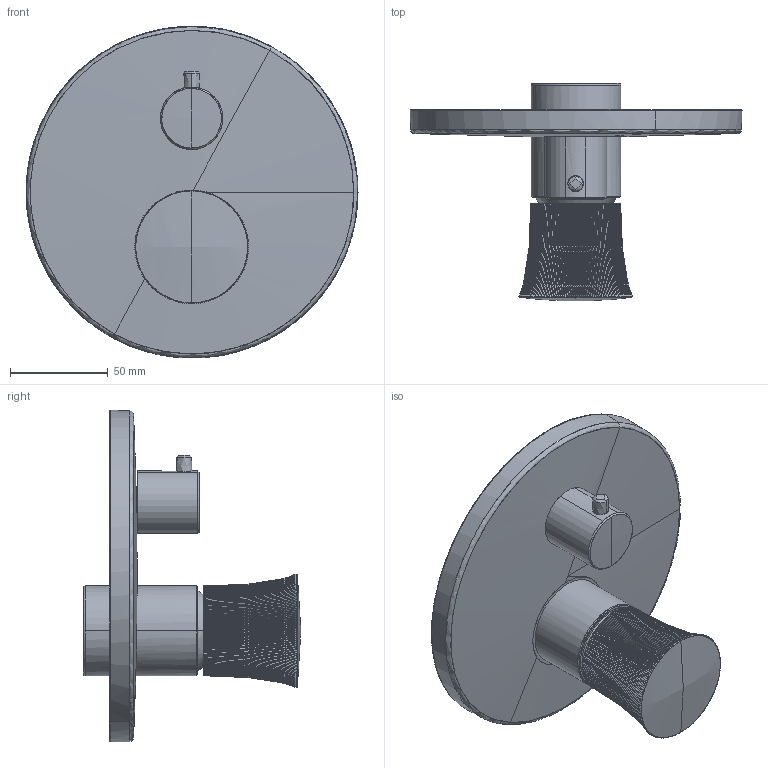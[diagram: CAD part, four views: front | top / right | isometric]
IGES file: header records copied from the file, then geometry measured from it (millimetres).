
Global section: file name: d:\users\matthias.isele\Desktop\Neuer Ordner\WT4210012010\3D\WT4210012010.igs; native system: Rhinoceros ( Sep 13 2016 ); preprocessor: Trout Lake IGES 012 Sep 13 2016; date: 221103.063119; units: millimetre
Bounding box: 170 x 111.46 x 169.81 mm (x, y, z)
Surface area: 63122.2 mm2 (no closed solid volume)
Topology: 0 solids, 0 shells, 1320 faces, 6497 edges, 6490 vertices
Faces by surface type: bspline 1320
